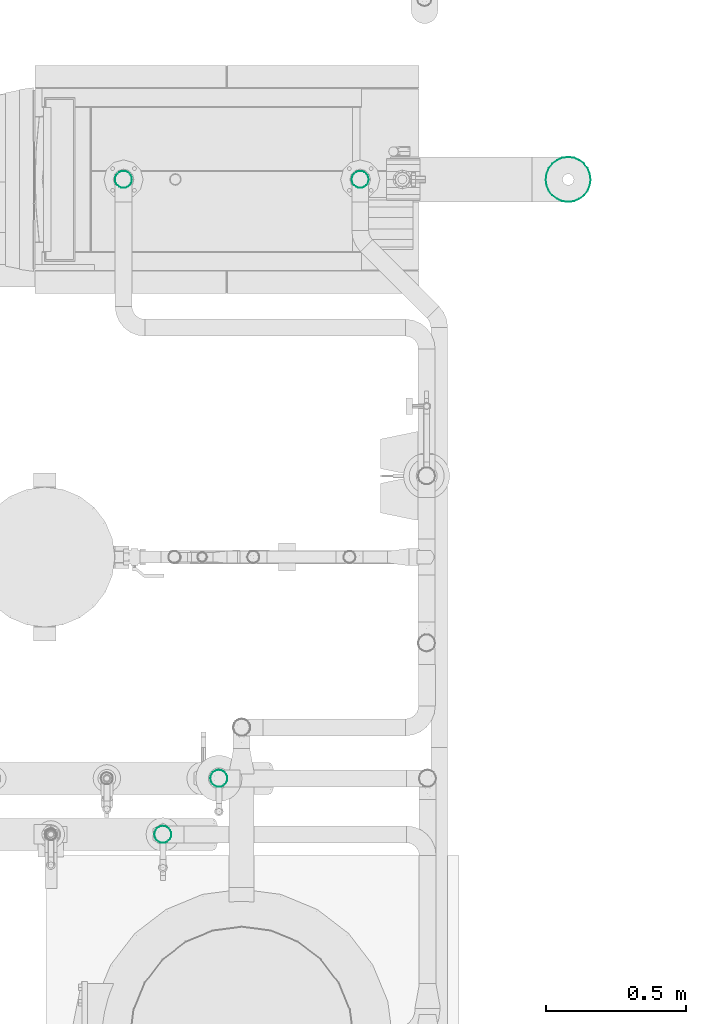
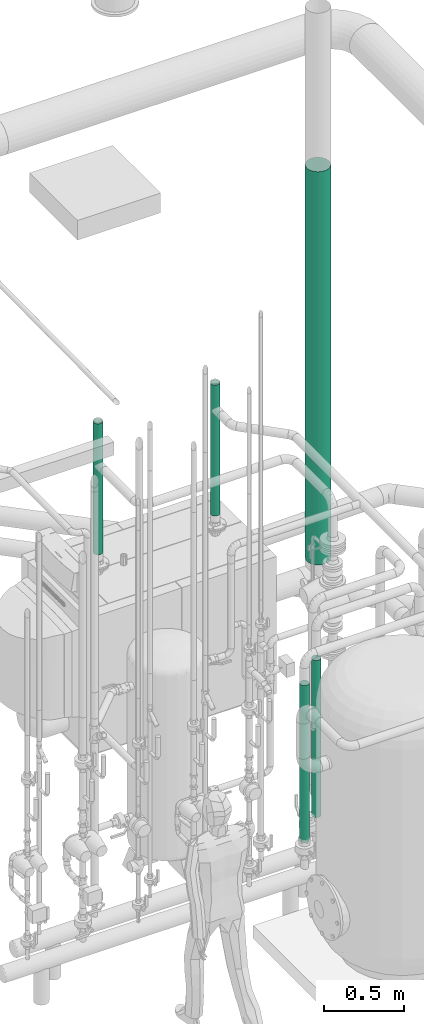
# One storey, part 10 of 374: 5 flow segments.
"""IFC2X3 building model written with IfcOpenShell, lengths in metres."""

import ifcopenshell
import ifcopenshell.guid

model = None  # the IFC model being written
_history = None  # IfcOwnerHistory: only IFC2X3 demands one
_inside = {}  # id of a spatial element -> (the spatial element, [elements in it])
_under = {}  # id of a project, library or spatial element -> (it, [spatial elements below it])
_declared = {}  # id of a project -> (the project, [libraries it declares])
_typed = {}  # id of a type object -> (the type object, [elements of that type])
_made_of = {}  # id of a material, layer set ... -> (it, [elements and type objects made of it])


def new_model(schema):
    """Start an empty IFC model of exactly this schema.

    Asked for "IFC4X3", IfcOpenShell would pick the latest addendum, in which some entities
    have other attributes; the version numbers below select the first issue.
    IFC2X3 requires an IfcOwnerHistory on every rooted entity: one is made here for all.
    """
    global model, _history
    if schema == "IFC4X3":
        model = ifcopenshell.file(schema_version=(4, 3, 0, 0))
    else:
        model = ifcopenshell.file(schema=schema)
    _inside.clear()
    _under.clear()
    _declared.clear()
    _typed.clear()
    _made_of.clear()
    _history = None
    if model.schema == "IFC2X3":
        org = make("IfcOrganization", Name="unknown")
        user = make(
            "IfcPersonAndOrganization",
            ThePerson=make("IfcPerson", FamilyName="unknown"),
            TheOrganization=org,
        )
        app = make(
            "IfcApplication",
            ApplicationDeveloper=org,
            Version="unknown",
            ApplicationFullName="unknown",
            ApplicationIdentifier="unknown",
        )
        _history = make(
            "IfcOwnerHistory",
            OwningUser=user,
            OwningApplication=app,
            ChangeAction="ADDED",
            CreationDate=0,
        )
    return model


def make(cls, **values):
    """One entity of the class cls with the attributes given. An attribute that is None is left unset."""
    return model.create_entity(
        cls, **{name: value for name, value in values.items() if value is not None}
    )


def rooted(cls, **values):
    """An entity with a GlobalId (a new one), such as an element, a storey or a relation."""
    return make(cls, GlobalId=ifcopenshell.guid.new(), OwnerHistory=_history, **values)


def si_unit(unit_type, name, prefix=None):
    """IfcSIUnit, for example si_unit("LENGTHUNIT", "METRE", prefix="MILLI")."""
    return make("IfcSIUnit", UnitType=unit_type, Prefix=prefix, Name=name)


def assignment(units):
    """IfcUnitAssignment: the units of a project."""
    return None if units is None else make("IfcUnitAssignment", Units=units)


def point(xyz):
    """IfcCartesianPoint."""
    return None if xyz is None else make("IfcCartesianPoint", Coordinates=xyz)


def direction(xyz):
    """IfcDirection."""
    return None if xyz is None else make("IfcDirection", DirectionRatios=xyz)


def frame(location, z_axis=None, x_axis=None):
    """IfcAxis2Placement3D, a coordinate frame: its origin and axes. An axis left out is left unset."""
    return make(
        "IfcAxis2Placement3D",
        Location=point(location),
        Axis=direction(z_axis),
        RefDirection=direction(x_axis),
    )


def origin():
    """The frame at (0, 0, 0) with its axes left unset."""
    return frame((0.0, 0.0, 0.0))


def place(relative_to, where):
    """IfcLocalPlacement: puts the frame where relative to a parent placement (None: the world)."""
    return make(
        "IfcLocalPlacement", PlacementRelTo=relative_to, RelativePlacement=where
    )


def context(
    kind, dimensions, precision=None, world=None, true_north=None, identifier=None
):
    """IfcGeometricRepresentationContext, for example the 3D "Model" context."""
    return make(
        "IfcGeometricRepresentationContext",
        ContextIdentifier=identifier,
        ContextType=kind,
        CoordinateSpaceDimension=dimensions,
        Precision=precision,
        WorldCoordinateSystem=world,
        TrueNorth=true_north,
    )


def subcontext(parent, identifier, kind, view, scale=None):
    """IfcGeometricRepresentationSubContext, for example "Body" below "Model"."""
    return make(
        "IfcGeometricRepresentationSubContext",
        ContextIdentifier=identifier,
        ContextType=kind,
        ParentContext=parent,
        TargetScale=scale,
        TargetView=view,
    )


def project(units=None, contexts=None):
    """IfcProject with its units and contexts."""
    return rooted(
        "IfcProject",
        Name="project",
        RepresentationContexts=contexts,
        UnitsInContext=assignment(units),
    )


def spatial(cls, under=None, at=None, **own):
    """A site, building, storey or space (cls), placed at a placement, below another one or the project."""
    s = rooted(cls, ObjectPlacement=at, **own)
    if under is not None:
        _under.setdefault(under.id(), (under, []))[1].append(s)
    return s


def faces_of(points, faces, orient=None, outer=None):
    """IfcFace entities. A face is a list of loops; a loop is a list of indices into points, from 0.

    orient and outer hold one flag for each loop. By default every Orientation is true, the
    first loop of a face is its IfcFaceOuterBound and the others are IfcFaceBound.
    """
    made = []
    for i, loops in enumerate(faces):
        bounds = []
        for j, loop in enumerate(loops):
            is_outer = j == 0 if outer is None else outer[i][j]
            bounds.append(
                make(
                    "IfcFaceOuterBound" if is_outer else "IfcFaceBound",
                    Bound=make("IfcPolyLoop", Polygon=[points[k] for k in loop]),
                    Orientation=True if orient is None else orient[i][j],
                )
            )
        made.append(make("IfcFace", Bounds=bounds))
    return made


def open_shell(faces, orient=None, outer=None):
    """The faces of one IfcOpenShell. surface_model builds it on its shared points."""
    return ("IfcOpenShell", faces, orient, outer)


def surface_model(cls, points, shells):
    """IfcFaceBasedSurfaceModel or IfcShellBasedSurfaceModel (cls): surfaces that need not close."""
    shared = [point(p) for p in points]
    made = [make(c, CfsFaces=faces_of(shared, fs, o, b)) for c, fs, o, b in shells]
    if cls == "IfcFaceBasedSurfaceModel":
        return make(cls, FbsmFaces=made)
    return make(cls, SbsmBoundary=made)


def shape(context_of_items, identifier, shape_type, items):
    """IfcShapeRepresentation: the items that make up one representation, for example the "Body"."""
    return make(
        "IfcShapeRepresentation",
        ContextOfItems=context_of_items,
        RepresentationIdentifier=identifier,
        RepresentationType=shape_type,
        Items=items,
    )


def source(mapping_origin, context_of_items, identifier, shape_type, items):
    """IfcRepresentationMap: a shape defined once, which mapped items show again and again."""
    return make(
        "IfcRepresentationMap",
        MappingOrigin=mapping_origin,
        MappedRepresentation=shape(context_of_items, identifier, shape_type, items),
    )


def transform(
    local_origin,
    x_axis=None,
    y_axis=None,
    z_axis=None,
    scale=None,
    scale2=None,
    scale3=None,
    uniform=True,
):
    """IfcCartesianTransformationOperator3D, or its non-uniform kind. x_axis, y_axis, z_axis: its Axis1, 2, 3."""
    if uniform:
        return make(
            "IfcCartesianTransformationOperator3D",
            Axis1=direction(x_axis),
            Axis2=direction(y_axis),
            LocalOrigin=point(local_origin),
            Scale=scale,
            Axis3=direction(z_axis),
        )
    return make(
        "IfcCartesianTransformationOperator3DnonUniform",
        Axis1=direction(x_axis),
        Axis2=direction(y_axis),
        LocalOrigin=point(local_origin),
        Scale=scale,
        Axis3=direction(z_axis),
        Scale2=scale2,
        Scale3=scale3,
    )


def mapped(mapping_source, mapping_target):
    """IfcMappedItem: shows the shape of a source again, moved by a transform."""
    return make(
        "IfcMappedItem", MappingSource=mapping_source, MappingTarget=mapping_target
    )


def made_of(thing, what):
    """Note that an element or type object is made of a material, layer set ...; save() writes the relation."""
    if what is not None:
        _made_of.setdefault(what.id(), (what, []))[1].append(thing)
    return thing


def element(
    cls,
    number,
    at=None,
    inside=None,
    cuts=None,
    type_object=None,
    material=None,
    context=None,
    identifier="Body",
    shape_type=None,
    held_by="IfcProductDefinitionShape",
    body=None,
    shapes=None,
    **own,
):
    """One element of the class cls, such as IfcWall. Its Tag is "e" and its number.

    at: its placement. inside: the storey or other place that contains it. cuts: it is an
    opening in that element (IfcRelVoidsElement). A single representation is given by context,
    identifier, shape_type and body (its items); several are given by shapes. held_by: the class
    of the entity that holds the representations. save() writes the other relations.
    """
    e = rooted(cls, Tag="e%d" % number, ObjectPlacement=at, **own)
    if body is not None:
        shapes = [shape(context, identifier, shape_type, body)]
    if shapes is not None:
        e.Representation = make(held_by, Representations=shapes)
    if inside is not None:
        _inside.setdefault(inside.id(), (inside, []))[1].append(e)
    if cuts is not None:
        rooted(
            "IfcRelVoidsElement", RelatingBuildingElement=cuts, RelatedOpeningElement=e
        )
    if type_object is not None:
        _typed.setdefault(type_object.id(), (type_object, []))[1].append(e)
    return made_of(e, material)


def aggregate(whole, parts):
    """IfcRelAggregates: a whole, such as a stair, and the parts it consists of."""
    return rooted("IfcRelAggregates", RelatingObject=whole, RelatedObjects=parts)


def save(model, path):
    """Write the relations noted so far, then the file.

    IfcRelAggregates (storeys below a building ...), IfcRelContainedInSpatialStructure (elements
    in a storey), IfcRelDefinesByType, IfcRelAssociatesMaterial and IfcRelDeclares: one each for
    every whole, place, type object, material and project.
    """
    for whole, parts in _under.values():
        aggregate(whole, parts)
    for where, things in _inside.values():
        rooted(
            "IfcRelContainedInSpatialStructure",
            RelatedElements=things,
            RelatingStructure=where,
        )
    for kind, things in _typed.values():
        rooted("IfcRelDefinesByType", RelatedObjects=things, RelatingType=kind)
    for what, things in _made_of.values():
        rooted("IfcRelAssociatesMaterial", RelatedObjects=things, RelatingMaterial=what)
    for by, libraries in _declared.values():
        rooted("IfcRelDeclares", RelatingContext=by, RelatedDefinitions=libraries)
    model.write(path)


model = new_model("IFC2X3")

# Units and contexts
model_context = context("Model", 3, precision=1e-05, world=origin(), true_north=direction((-0.4480736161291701, 0.8939966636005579)))
body_context = subcontext(model_context, "Body", "Model", "MODEL_VIEW")
ifc_project = project(units=[si_unit("LENGTHUNIT", "METRE"), si_unit("AREAUNIT", "SQUARE_METRE"), si_unit("VOLUMEUNIT", "CUBIC_METRE"), si_unit("PLANEANGLEUNIT", "RADIAN"), si_unit("THERMODYNAMICTEMPERATUREUNIT", "KELVIN"), si_unit("MASSUNIT", "GRAM", prefix="KILO"), si_unit("TIMEUNIT", "SECOND")], contexts=[model_context])

# Site, building, storey
site_placement = place(None, origin())
site = spatial("IfcSite", under=ifc_project, at=site_placement, Name="Site 1", CompositionType="ELEMENT")
building_placement = place(site_placement, origin())
building = spatial("IfcBuilding", under=site, at=building_placement, Name="Undefined", CompositionType="ELEMENT")
storey_placement = place(building_placement, origin())
storey = spatial("IfcBuildingStorey", under=building, at=storey_placement, Name="Rez de chauss\x8ee", CompositionType="ELEMENT", Elevation=0.0)

# Flow segments
shared_shape_1 = source(origin(), body_context, "Body", "SurfaceModel", [
    surface_model("IfcFaceBasedSurfaceModel", [(0.0, 0.020884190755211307, 0.0), (0.0, 0.0, 0.0), (3.0, 0.0, 0.0), (3.0, 0.020884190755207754, -4.4408921e-16), (0.0, -0.020172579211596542, -0.005405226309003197), (3.0, -0.020172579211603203, -0.005405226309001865), (0.0, -0.03825881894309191, -0.015847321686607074), (3.0, -0.03825881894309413, -0.015847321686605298), (0.0, -0.05302617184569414, -0.0306146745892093), (3.0, -0.053026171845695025, -0.030614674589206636), (0.0, -0.06346826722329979, -0.04870091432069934), (3.0, -0.06346826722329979, -0.04870091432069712), (0.0, -0.06887349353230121, -0.06887349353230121), (3.0, -0.0688734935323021, -0.06887349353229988), (0.0, -0.06887349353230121, -0.08975768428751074), (3.0, -0.0688734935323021, -0.08975768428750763), (0.0, -0.06346826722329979, -0.10993026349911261), (3.0, -0.06346826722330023, -0.10993026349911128), (0.0, -0.05302617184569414, -0.12801650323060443), (3.0, -0.0530261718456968, -0.12801650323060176), (0.0, -0.038258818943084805, -0.14278385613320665), (3.0, -0.03825881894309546, -0.1427838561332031), (0.0, -0.020172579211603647, -0.15322595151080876), (3.0, -0.020172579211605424, -0.15322595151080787), (0.0, 7.105427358e-15, -0.15863117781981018), (3.0, -2.664535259e-15, -0.15863117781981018), (0.0, 0.020884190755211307, -0.15863117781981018), (3.0, 0.020884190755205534, -0.15863117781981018), (0.0, 0.04105676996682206, -0.15322595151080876), (3.0, 0.04105676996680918, -0.1532259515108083), (0.0, 0.05914300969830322, -0.1427838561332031), (3.0, 0.059143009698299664, -0.14278385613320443), (0.0, 0.07391036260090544, -0.12801650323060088), (3.0, 0.073910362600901, -0.12801650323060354), (0.0, 0.0843524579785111, -0.10993026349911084), (3.0, 0.08435245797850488, -0.10993026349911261), (0.0, 0.08975768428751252, -0.08975768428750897), (3.0, 0.08975768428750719, -0.08975768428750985), (0.0, 0.08975768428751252, -0.06887349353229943), (3.0, 0.08975768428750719, -0.0688734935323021), (0.0, 0.0843524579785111, -0.048700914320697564), (3.0, 0.08435245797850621, -0.048700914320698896), (0.0, 0.07391036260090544, -0.030614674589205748), (3.0, 0.07391036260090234, -0.03061467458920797), (0.0, 0.05914300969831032, -0.015847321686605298), (3.0, 0.05914300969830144, -0.015847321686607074), (0.0, 0.04105676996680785, -0.005405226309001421), (3.0, 0.041056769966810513, -0.005405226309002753)], [open_shell([[[0, 1, 2, 3]], [[1, 4, 5, 2]], [[4, 6, 7, 5]], [[6, 8, 9, 7]], [[8, 10, 11, 9]], [[10, 12, 13, 11]], [[12, 14, 15, 13]], [[14, 16, 17, 15]], [[16, 18, 19, 17]], [[18, 20, 21, 19]], [[20, 22, 23, 21]], [[22, 24, 25, 23]], [[24, 26, 27, 25]], [[26, 28, 29, 27]], [[28, 30, 31, 29]], [[30, 32, 33, 31]], [[32, 34, 35, 33]], [[34, 36, 37, 35]], [[36, 38, 39, 37]], [[38, 40, 41, 39]], [[40, 42, 43, 41]], [[42, 44, 45, 43]], [[44, 46, 47, 45]], [[46, 0, 3, 47]]])]),
])
flow_segment_1_placement = place(storey_placement, origin())
element("IfcFlowSegment", 1, at=flow_segment_1_placement, inside=storey, Name="Tube", ObjectType="Tube", context=body_context, shape_type="MappedRepresentation", body=[
    mapped(shared_shape_1, transform((55.52532337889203, 12.978661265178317, 0.790590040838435), x_axis=(0.0, 0.0, 1.0), y_axis=(-0.9914448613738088, -0.13052619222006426, 0.0), z_axis=(0.13052619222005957, -0.9914448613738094, 0.0))),
])
shared_shape_2 = source(origin(), body_context, "Body", "SurfaceModel", [
    surface_model("IfcFaceBasedSurfaceModel", [(0.0, 0.007870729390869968, 7.105427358e-15), (0.0, 0.0, 0.0), (1.2000000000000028, 0.0, 0.0), (1.2, 0.007870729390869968, 7.105427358e-15), (0.0, -0.00760254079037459, -0.0020370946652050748), (1.2, -0.00760254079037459, -0.0020370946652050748), (0.0, -0.01441879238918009, -0.00597245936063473), (1.2, -0.01441879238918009, -0.00597245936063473), (0.0, -0.019984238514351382, -0.011537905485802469), (1.2, -0.019984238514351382, -0.011537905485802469), (0.0, -0.023919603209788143, -0.018354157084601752), (1.2, -0.023919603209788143, -0.018354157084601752), (0.0, -0.025956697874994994, -0.025956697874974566), (1.2, -0.025956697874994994, -0.025956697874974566), (0.0, -0.025956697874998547, -0.03382742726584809), (1.2, -0.025956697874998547, -0.03382742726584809), (0.0, -0.02391960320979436, -0.041429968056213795), (1.2, -0.02391960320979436, -0.041429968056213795), (0.0, -0.019984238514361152, -0.04824621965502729), (1.2, -0.019984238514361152, -0.04824621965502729), (0.0, -0.01441879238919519, -0.05381166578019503), (1.2, -0.01441879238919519, -0.05381166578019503), (0.0, -0.007602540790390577, -0.05774703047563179), (1.2, -0.007602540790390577, -0.05774703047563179), (0.0, -1.7763568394e-14, -0.05978412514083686), (1.2, -1.7763568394e-14, -0.05978412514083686), (0.0, 0.007870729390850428, -0.05978412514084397), (1.2, 0.007870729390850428, -0.05978412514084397), (0.0, 0.015473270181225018, -0.057747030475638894), (1.2, 0.015473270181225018, -0.057747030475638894), (0.0, 0.022289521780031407, -0.05381166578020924), (1.2, 0.022289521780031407, -0.05381166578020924), (0.0, 0.027854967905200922, -0.048246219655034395), (1.2, 0.027854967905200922, -0.048246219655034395), (0.0, 0.031790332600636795, -0.04142996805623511), (1.2, 0.031790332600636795, -0.04142996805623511), (0.0, 0.033827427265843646, -0.0338274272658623), (1.2, 0.033827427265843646, -0.0338274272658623), (0.0, 0.0338274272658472, -0.025956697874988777), (1.2, 0.0338274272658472, -0.025956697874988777), (0.0, 0.0317903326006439, -0.01835415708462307), (1.2, 0.0317903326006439, -0.01835415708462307), (0.0, 0.02785496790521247, -0.01153790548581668), (1.2, 0.02785496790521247, -0.01153790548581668), (0.0, 0.022289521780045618, -0.005972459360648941), (1.2, 0.022289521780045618, -0.005972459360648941), (0.0, 0.015473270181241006, -0.0020370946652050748), (1.2, 0.015473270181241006, -0.0020370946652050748)], [open_shell([[[0, 1, 2, 3]], [[1, 4, 5, 2]], [[4, 6, 7, 5]], [[6, 8, 9, 7]], [[8, 10, 11, 9]], [[10, 12, 13, 11]], [[12, 14, 15, 13]], [[14, 16, 17, 15]], [[16, 18, 19, 17]], [[18, 20, 21, 19]], [[20, 22, 23, 21]], [[22, 24, 25, 23]], [[24, 26, 27, 25]], [[26, 28, 29, 27]], [[28, 30, 31, 29]], [[30, 32, 33, 31]], [[32, 34, 35, 33]], [[34, 36, 37, 35]], [[36, 38, 39, 37]], [[38, 40, 41, 39]], [[40, 42, 43, 41]], [[42, 44, 45, 43]], [[44, 46, 47, 45]], [[46, 0, 3, 47]]])]),
])
flow_segment_2_placement = place(storey_placement, origin())
element("IfcFlowSegment", 2, at=flow_segment_2_placement, inside=storey, Name="Tube acier d'après DIN 2448", ObjectType="Tube acier d'après DIN 2448", context=body_context, shape_type="MappedRepresentation", body=[
    mapped(shared_shape_2, transform((54.286684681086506, 10.925840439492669, 0.5603499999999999), x_axis=(0.0, 0.0, 1.0), y_axis=(0.13052619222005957, -0.9914448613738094, 0.0), z_axis=(0.9914448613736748, 0.13052619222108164, 0.0))),
])
flow_segment_3_placement = place(storey_placement, origin())
element("IfcFlowSegment", 3, at=flow_segment_3_placement, inside=storey, Name="Tube acier d'après DIN 2448", ObjectType="Tube acier d'après DIN 2448", context=body_context, shape_type="MappedRepresentation", body=[
    mapped(shared_shape_2, transform((54.0866846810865, 10.725840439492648, 0.5603500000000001), x_axis=(0.0, 0.0, 1.0), y_axis=(0.13052619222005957, -0.9914448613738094, 0.0), z_axis=(0.9914448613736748, 0.13052619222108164, 0.0))),
])
shared_shape_3 = source(origin(), body_context, "Body", "SurfaceModel", [
    surface_model("IfcFaceBasedSurfaceModel", [(0.0, 0.007870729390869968, 7.105427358e-15), (0.0, 0.0, 0.0), (1.0, 0.0, 0.0), (1.0, 0.007870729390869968, 0.0), (0.0, -0.00760254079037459, -0.0020370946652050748), (1.0, -0.007602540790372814, -0.00203709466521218), (0.0, -0.01441879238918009, -0.00597245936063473), (1.0, -0.014418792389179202, -0.00597245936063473), (0.0, -0.019984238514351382, -0.011537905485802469), (1.0, -0.019984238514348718, -0.011537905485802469), (0.0, -0.023919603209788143, -0.018354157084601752), (1.0, -0.02391960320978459, -0.018354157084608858), (0.0, -0.025956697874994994, -0.025956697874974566), (1.0, -0.025956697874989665, -0.025956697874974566), (0.0, -0.025956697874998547, -0.03382742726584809), (1.0, -0.025956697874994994, -0.03382742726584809), (0.0, -0.02391960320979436, -0.041429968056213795), (1.0, -0.023919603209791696, -0.041429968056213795), (0.0, -0.019984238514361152, -0.04824621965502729), (1.0, -0.019984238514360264, -0.04824621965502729), (0.0, -0.01441879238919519, -0.05381166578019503), (1.0, -0.014418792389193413, -0.05381166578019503), (0.0, -0.007602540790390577, -0.05774703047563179), (1.0, -0.007602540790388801, -0.05774703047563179), (0.0, -1.7763568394e-14, -0.05978412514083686), (1.0, -1.7763568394e-14, -0.05978412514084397), (0.0, 0.007870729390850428, -0.05978412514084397), (1.0, 0.007870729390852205, -0.05978412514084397), (0.0, 0.015473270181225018, -0.057747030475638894), (1.0, 0.015473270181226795, -0.057747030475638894), (0.0, 0.022289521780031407, -0.05381166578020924), (1.0, 0.02228952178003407, -0.05381166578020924), (0.0, 0.027854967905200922, -0.048246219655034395), (1.0, 0.027854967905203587, -0.048246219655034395), (0.0, 0.031790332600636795, -0.04142996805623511), (1.0, 0.03179033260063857, -0.04142996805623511), (0.0, 0.033827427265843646, -0.0338274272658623), (1.0, 0.03382742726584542, -0.0338274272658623), (0.0, 0.0338274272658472, -0.025956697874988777), (1.0, 0.033827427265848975, -0.025956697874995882), (0.0, 0.0317903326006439, -0.01835415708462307), (1.0, 0.031790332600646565, -0.01835415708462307), (0.0, 0.02785496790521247, -0.01153790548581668), (1.0, 0.027854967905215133, -0.01153790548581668), (0.0, 0.022289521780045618, -0.005972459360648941), (1.0, 0.022289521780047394, -0.005972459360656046), (0.0, 0.015473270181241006, -0.0020370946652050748), (1.0, 0.015473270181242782, -0.00203709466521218)], [open_shell([[[0, 1, 2, 3]], [[1, 4, 5, 2]], [[4, 6, 7, 5]], [[6, 8, 9, 7]], [[8, 10, 11, 9]], [[10, 12, 13, 11]], [[12, 14, 15, 13]], [[14, 16, 17, 15]], [[16, 18, 19, 17]], [[18, 20, 21, 19]], [[20, 22, 23, 21]], [[22, 24, 25, 23]], [[24, 26, 27, 25]], [[26, 28, 29, 27]], [[28, 30, 31, 29]], [[30, 32, 33, 31]], [[32, 34, 35, 33]], [[34, 36, 37, 35]], [[36, 38, 39, 37]], [[38, 40, 41, 39]], [[40, 42, 43, 41]], [[42, 44, 45, 43]], [[44, 46, 47, 45]], [[46, 0, 3, 47]]])]),
])
flow_segment_4_placement = place(storey_placement, origin())
element("IfcFlowSegment", 4, at=flow_segment_4_placement, inside=storey, Name="Tube acier d'après DIN 2448", ObjectType="Tube acier d'après DIN 2448", context=body_context, shape_type="MappedRepresentation", body=[
    mapped(shared_shape_3, transform((53.94622216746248, 13.064016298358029, 1.3879999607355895), x_axis=(0.0, 0.0, 1.0), y_axis=(0.13052619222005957, -0.9914448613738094, 0.0), z_axis=(0.9914448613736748, 0.13052619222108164, 0.0))),
])
flow_segment_5_placement = place(storey_placement, origin())
element("IfcFlowSegment", 5, at=flow_segment_5_placement, inside=storey, Name="Tube acier d'après DIN 2448", ObjectType="Tube acier d'après DIN 2448", context=body_context, shape_type="MappedRepresentation", body=[
    mapped(shared_shape_3, transform((54.791222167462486, 13.064016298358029, 1.3879999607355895), x_axis=(0.0, 0.0, 1.0), y_axis=(0.13052619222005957, -0.9914448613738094, 0.0), z_axis=(0.9914448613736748, 0.13052619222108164, 0.0))),
])

save(model, "model.ifc")
